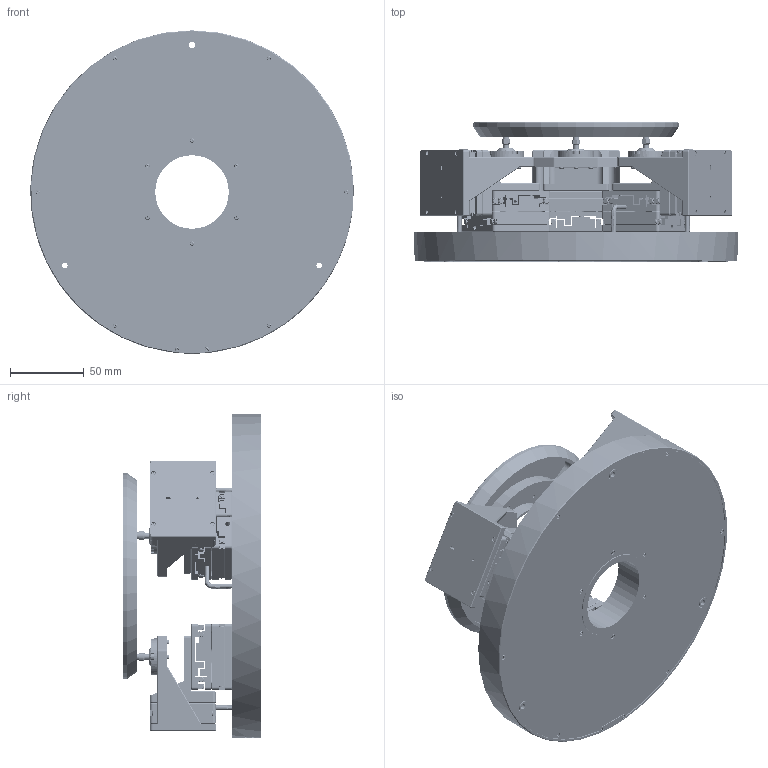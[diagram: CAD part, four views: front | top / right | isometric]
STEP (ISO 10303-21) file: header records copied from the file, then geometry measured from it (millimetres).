
FILE_DESCRIPTION (( 'STEP AP214' ), '1' );
FILE_NAME ('100334_Ver 0_GO HexStage 1 Assy.STEP', '2025-03-14T08:31:05', ( '' ), ( '' ), 'SwSTEP 2.0', 'SolidWorks 2021', '' );
FILE_SCHEMA (( 'AUTOMOTIVE_DESIGN' ));
Length unit declared in the file: millimetre
Products named in the file (24): Cable; HPB-1.5X4-SUS; 100337_Ver 0_HexStage_1_Bottom_lid; 100054_Ver 0_Top_LS454514; 100338_Ver 0_HexStage_1_Cable_clamp_upper; 100087_Ver 1_Tryckstiftholder_LSXX4514; 100334_Ver 0_GO HexStage 1 Assy; 100098_Ver 1_BackConnector_LS454514; 100329_Ver 0_Ball_Joint_fix; _SV1040- 10Z Body_4; 100086_Ver 1_Tryckskruvholder_LSXX4514; CSHSMT-ST-M3-10_CSHSMT-ST-M3-8; SRJ006C-Base; 100335_Ver 0_Ball_joint_bracket; 100055_Ver 2_Bot_LS454514; SNZS-M2-6; Cable2; 100333_Ver 0_HexStage_1_Top; 100339_Ver 0_HexStage_1_Cable_clamp_lower; 100336_Ver 0_Z_axis_bracket; 100325_Ver 0_HexStage_1_Base; SRJ006C-Pin; 100099_Ver 1_FrontConnector_LS454514; SNZS-M2-8
Assembly tree (242 placements, depth 2):
  100334_Ver 0_GO HexStage 1 Assy
    _SV1040- 10Z Body_4  x36
    100086_Ver 1_Tryckskruvholder_LSXX4514  x9
    100087_Ver 1_Tryckstiftholder_LSXX4514  x9
    100098_Ver 1_BackConnector_LS454514  x9
    100054_Ver 0_Top_LS454514  x9
    100055_Ver 2_Bot_LS454514  x9
    100099_Ver 1_FrontConnector_LS454514  x9
    SRJ006C-Base  x3
    SRJ006C-Pin  x3
    100329_Ver 0_Ball_Joint_fix  x3
    100335_Ver 0_Ball_joint_bracket  x3
    100336_Ver 0_Z_axis_bracket  x3
    SNZS-M2-8  x76
    CSHSMT-ST-M3-10_CSHSMT-ST-M3-8  x12
    SNZS-M2-6  x8
    HPB-1.5X4-SUS  x30
    100333_Ver 0_HexStage_1_Top
    100325_Ver 0_HexStage_1_Base
    100337_Ver 0_HexStage_1_Bottom_lid
    100339_Ver 0_HexStage_1_Cable_clamp_lower
    100338_Ver 0_HexStage_1_Cable_clamp_upper
    Cable2  x3
    Cable  x3
Bounding box: 220 x 94.5 x 220 mm (x, y, z)
Volume: 756188.6 mm3; surface area: 461029.4 mm2
Topology: 245 solids, 245 shells, 14609 faces, 35381 edges, 21227 vertices
Faces by surface type: plane 7058, cylinder 4219, cone 2482, sphere 624, torus 208, bspline 18
Entity records: 67420 total; most frequent: CARTESIAN_POINT 12911, DIRECTION 11535, ORIENTED_EDGE 9834, EDGE_CURVE 4917, AXIS2_PLACEMENT_3D 4553, VERTEX_POINT 3215, EDGE_LOOP 2540, VECTOR 2429
